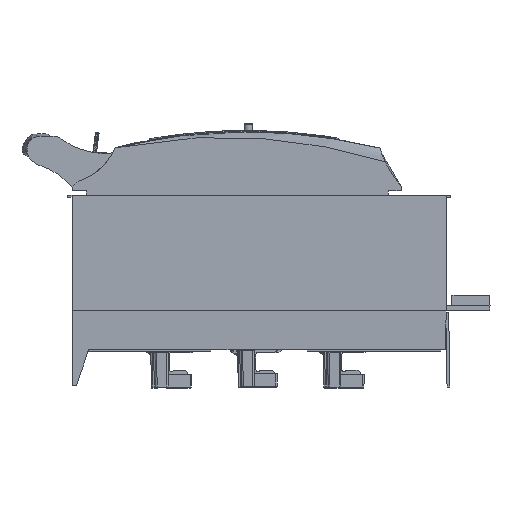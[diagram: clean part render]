
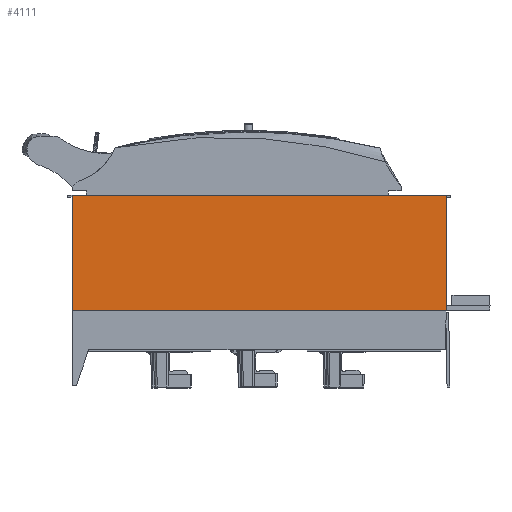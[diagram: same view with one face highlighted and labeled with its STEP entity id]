
A CAD part, front view. The second image highlights one B-rep face of the part: STEP entity #4111.
In plain terms, the highlighted planar face has unit normal (0, -1, 0).
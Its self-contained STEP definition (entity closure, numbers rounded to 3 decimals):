
#4111=ADVANCED_FACE('',(#7581),#6285,.F.);
#6285=PLANE('',#39491);
#7581=FACE_OUTER_BOUND('',#9699,.T.);
#9699=EDGE_LOOP('',(#12588,#12589,#12590,#12591));
#12588=ORIENTED_EDGE('',*,*,#27333,.T.);
#12589=ORIENTED_EDGE('',*,*,#27364,.F.);
#12590=ORIENTED_EDGE('',*,*,#27929,.F.);
#12591=ORIENTED_EDGE('',*,*,#27352,.T.);
#23603=VERTEX_POINT('',#53632);
#23604=VERTEX_POINT('',#53634);
#23620=VERTEX_POINT('',#53670);
#23630=VERTEX_POINT('',#53692);
#27333=EDGE_CURVE('',#23604,#23603,#33150,.T.);
#27352=EDGE_CURVE('',#23620,#23604,#33163,.T.);
#27364=EDGE_CURVE('',#23630,#23603,#33175,.T.);
#27929=EDGE_CURVE('',#23620,#23630,#33242,.T.);
#33150=LINE('',#53633,#36079);
#33163=LINE('',#53669,#36092);
#33175=LINE('',#53693,#36104);
#33242=LINE('',#55656,#36171);
#36079=VECTOR('',#42940,1.);
#36092=VECTOR('',#42967,1.);
#36104=VECTOR('',#42981,1.);
#36171=VECTOR('',#43822,1.);
#39491=AXIS2_PLACEMENT_3D('',#55673,#43836,#43837);
#42940=DIRECTION('',(1.,0.,0.));
#42967=DIRECTION('',(0.,0.,-1.));
#42981=DIRECTION('',(0.,0.,-1.));
#43822=DIRECTION('',(1.,0.,0.));
#43836=DIRECTION('',(0.,1.,0.));
#43837=DIRECTION('',(0.,0.,-1.));
#53632=CARTESIAN_POINT('',(129.812,-103.938,0.193));
#53633=CARTESIAN_POINT('',(129.812,-103.938,0.193));
#53634=CARTESIAN_POINT('',(-130.188,-103.938,0.193));
#53669=CARTESIAN_POINT('',(-130.188,-103.938,80.193));
#53670=CARTESIAN_POINT('',(-130.188,-103.938,80.193));
#53692=CARTESIAN_POINT('',(129.812,-103.938,80.193));
#53693=CARTESIAN_POINT('',(129.812,-103.938,80.193));
#55656=CARTESIAN_POINT('',(129.812,-103.938,80.193));
#55673=CARTESIAN_POINT('',(129.812,-103.938,80.193));
